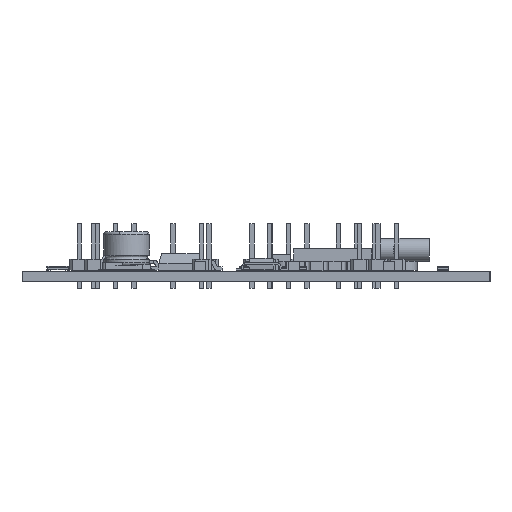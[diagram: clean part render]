
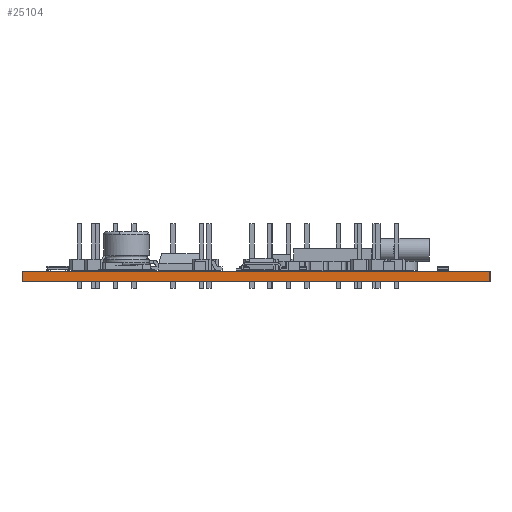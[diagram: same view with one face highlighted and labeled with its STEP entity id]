
A CAD part, left-side view. The second image highlights one B-rep face of the part: STEP entity #25104.
In plain terms, the highlighted planar face has unit normal (-1, 0, 0).
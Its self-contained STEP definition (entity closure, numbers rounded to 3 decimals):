
#25048 = VERTEX_POINT('',#25049);
#25049 = CARTESIAN_POINT('',(71.5,-115.,1.51));
#25055 = EDGE_CURVE('',#25056,#25048,#25058,.T.);
#25056 = VERTEX_POINT('',#25057);
#25057 = CARTESIAN_POINT('',(71.5,-115.,0.));
#25058 = LINE('',#25059,#25060);
#25059 = CARTESIAN_POINT('',(71.5,-115.,0.));
#25060 = VECTOR('',#25061,1.);
#25061 = DIRECTION('',(0.,0.,1.));
#25104 = ADVANCED_FACE('',(#25105),#25130,.T.);
#25105 = FACE_BOUND('',#25106,.T.);
#25106 = EDGE_LOOP('',(#25107,#25108,#25116,#25124));
#25107 = ORIENTED_EDGE('',*,*,#25055,.T.);
#25108 = ORIENTED_EDGE('',*,*,#25109,.T.);
#25109 = EDGE_CURVE('',#25048,#25110,#25112,.T.);
#25110 = VERTEX_POINT('',#25111);
#25111 = CARTESIAN_POINT('',(71.5,-50.,1.51));
#25112 = LINE('',#25113,#25114);
#25113 = CARTESIAN_POINT('',(71.5,-115.,1.51));
#25114 = VECTOR('',#25115,1.);
#25115 = DIRECTION('',(0.,1.,0.));
#25116 = ORIENTED_EDGE('',*,*,#25117,.F.);
#25117 = EDGE_CURVE('',#25118,#25110,#25120,.T.);
#25118 = VERTEX_POINT('',#25119);
#25119 = CARTESIAN_POINT('',(71.5,-50.,0.));
#25120 = LINE('',#25121,#25122);
#25121 = CARTESIAN_POINT('',(71.5,-50.,0.));
#25122 = VECTOR('',#25123,1.);
#25123 = DIRECTION('',(0.,0.,1.));
#25124 = ORIENTED_EDGE('',*,*,#25125,.F.);
#25125 = EDGE_CURVE('',#25056,#25118,#25126,.T.);
#25126 = LINE('',#25127,#25128);
#25127 = CARTESIAN_POINT('',(71.5,-115.,0.));
#25128 = VECTOR('',#25129,1.);
#25129 = DIRECTION('',(0.,1.,0.));
#25130 = PLANE('',#25131);
#25131 = AXIS2_PLACEMENT_3D('',#25132,#25133,#25134);
#25132 = CARTESIAN_POINT('',(71.5,-115.,0.));
#25133 = DIRECTION('',(-1.,0.,0.));
#25134 = DIRECTION('',(0.,1.,0.));
